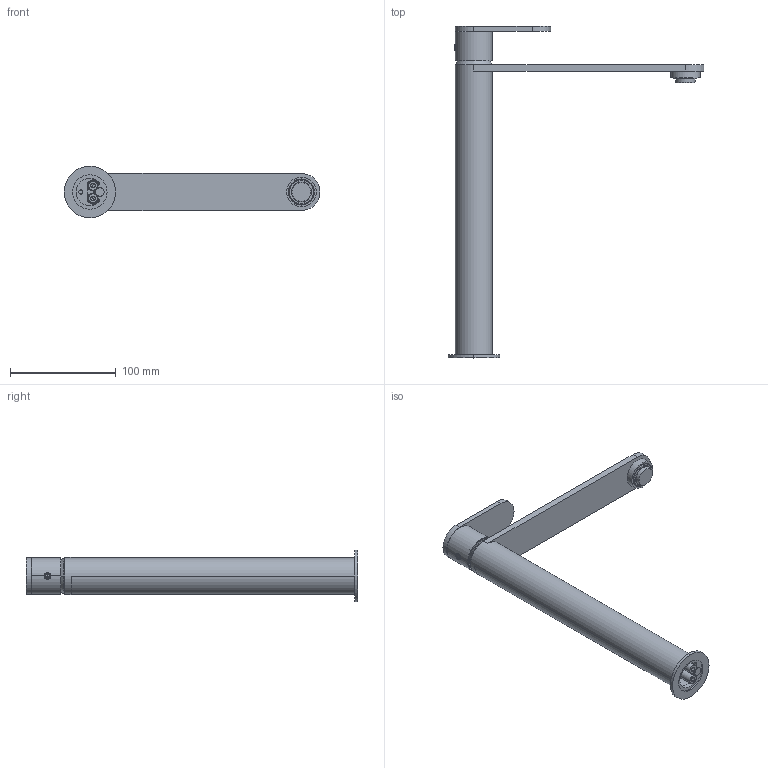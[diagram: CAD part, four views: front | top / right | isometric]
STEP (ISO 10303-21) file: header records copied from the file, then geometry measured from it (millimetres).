
FILE_DESCRIPTION((''),'2;1');
FILE_NAME('7906521_SW0001','2026-10-05T14:19:57',('carloff'),(''),'CREO PARAMETRIC BY PTC INC, 2025443','CREO PARAMETRIC BY PTC INC, 2025443','');
FILE_SCHEMA(('CONFIG_CONTROL_DESIGN'));
Length unit declared in the file: millimetre
Products named in the file (1): 7906521_SW0001
Bounding box: 241.9 x 313.74 x 48.8 mm (x, y, z)
Volume: 193265 mm3; surface area: 137847.4 mm2
Topology: 2 solids, 2 shells, 1166 faces, 2937 edges, 1765 vertices
Faces by surface type: cylinder 464, plane 295, torus 125, cone 118, bspline 100, sphere 64
Entity records: 48187 total; most frequent: CARTESIAN_POINT 20945, DIRECTION 5763, ORIENTED_EDGE 5736, EDGE_CURVE 2868, AXIS2_PLACEMENT_3D 2373, VERTEX_POINT 1765, CIRCLE 1307, EDGE_LOOP 1271
